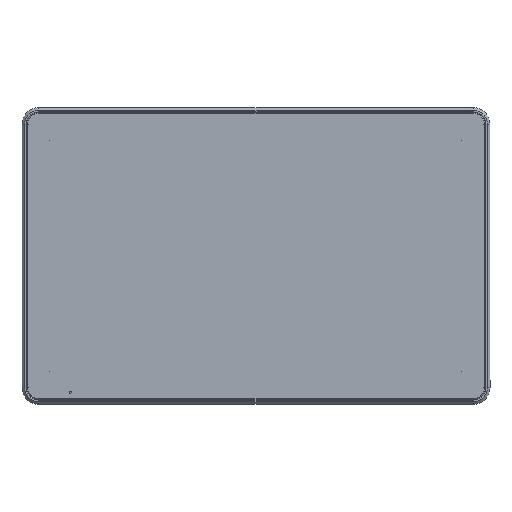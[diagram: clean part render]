
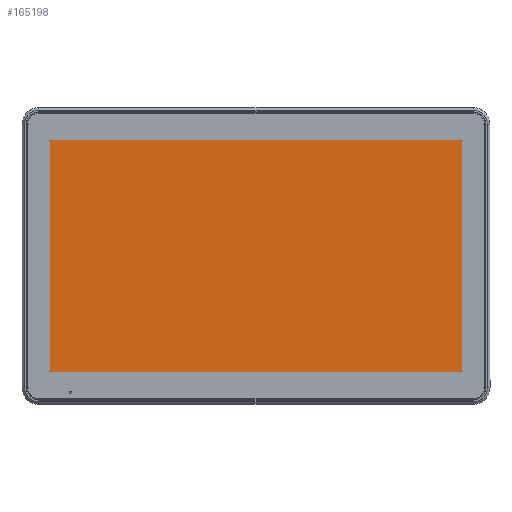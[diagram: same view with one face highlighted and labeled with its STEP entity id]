
A CAD part, top view. The second image highlights one B-rep face of the part: STEP entity #165198.
In plain terms, the highlighted planar face has unit normal (0, 0, 1).
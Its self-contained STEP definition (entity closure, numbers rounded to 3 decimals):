
#6477=PLANE('',#173516);
#12825=FACE_OUTER_BOUND('',#21425,.T.);
#21425=EDGE_LOOP('',(#119896,#119897,#119898,#119899));
#32117=LINE('',#253785,#49010);
#32120=LINE('',#253791,#49013);
#32123=LINE('',#253797,#49016);
#32126=LINE('',#253801,#49019);
#49010=VECTOR('',#192896,10.);
#49013=VECTOR('',#192901,10.);
#49016=VECTOR('',#192906,10.);
#49019=VECTOR('',#192911,10.);
#70260=VERTEX_POINT('',#253782);
#70261=VERTEX_POINT('',#253784);
#70263=VERTEX_POINT('',#253790);
#70265=VERTEX_POINT('',#253796);
#88717=EDGE_CURVE('',#70261,#70260,#32117,.T.);
#88720=EDGE_CURVE('',#70263,#70261,#32120,.T.);
#88723=EDGE_CURVE('',#70265,#70263,#32123,.T.);
#88726=EDGE_CURVE('',#70260,#70265,#32126,.T.);
#119896=ORIENTED_EDGE('',*,*,#88717,.T.);
#119897=ORIENTED_EDGE('',*,*,#88726,.T.);
#119898=ORIENTED_EDGE('',*,*,#88723,.T.);
#119899=ORIENTED_EDGE('',*,*,#88720,.T.);
#165198=ADVANCED_FACE('',(#12825),#6477,.T.);
#173516=AXIS2_PLACEMENT_3D('',#253866,#192981,#192982);
#192896=DIRECTION('',(1.,0.,0.));
#192901=DIRECTION('',(0.,-1.,0.));
#192906=DIRECTION('',(-1.,0.,0.));
#192911=DIRECTION('',(0.,1.,0.));
#192981=DIRECTION('center_axis',(0.,0.,
1.));
#192982=DIRECTION('ref_axis',(-1.,0.,0.));
#253782=CARTESIAN_POINT('',(204.6,-115.9,2.998));
#253784=CARTESIAN_POINT('',(-205.6,-115.9,2.998));
#253785=CARTESIAN_POINT('',(-0.375,-115.9,2.998));
#253790=CARTESIAN_POINT('',(-205.6,114.9,2.998));
#253791=CARTESIAN_POINT('',(-205.6,-58.25,2.998));
#253796=CARTESIAN_POINT('',(204.6,114.9,2.998));
#253797=CARTESIAN_POINT('',(-102.925,114.9,2.998));
#253801=CARTESIAN_POINT('',(204.6,-0.55,2.998));
#253866=CARTESIAN_POINT('Origin',(-0.25,-0.6,
2.998));
